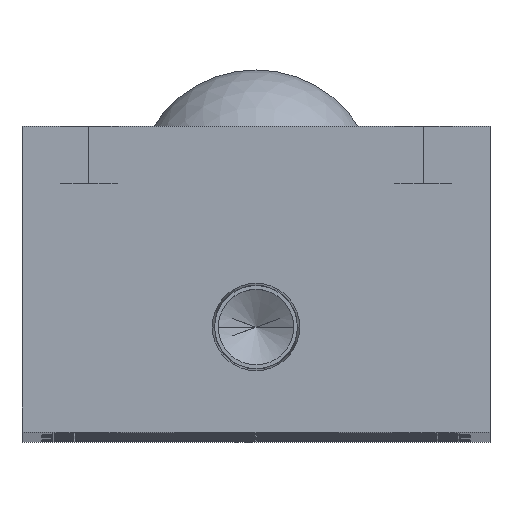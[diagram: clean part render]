
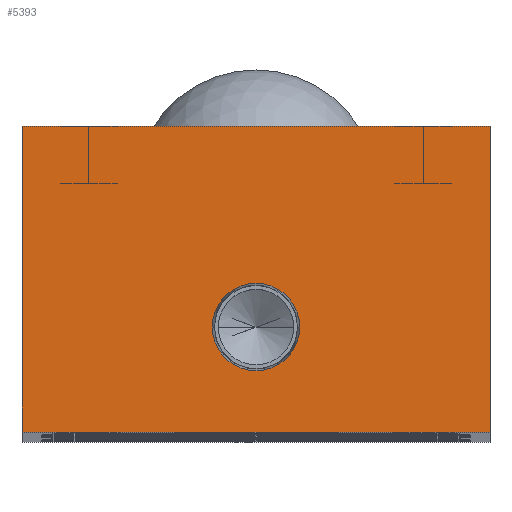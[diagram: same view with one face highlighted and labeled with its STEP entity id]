
A CAD part, top view. The second image highlights one B-rep face of the part: STEP entity #5393.
In plain terms, the highlighted planar face has unit normal (0, 0, 1).
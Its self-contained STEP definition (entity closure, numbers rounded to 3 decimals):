
#60 = VERTEX_POINT ( 'NONE', #12897 ) ;
#262 = CARTESIAN_POINT ( 'NONE',  ( 0., 0., 0. ) ) ;
#271 = CIRCLE ( 'NONE', #3642, 4.574 ) ;
#361 = VERTEX_POINT ( 'NONE', #7425 ) ;
#597 = ORIENTED_EDGE ( 'NONE', *, *, #10746, .T. ) ;
#680 = EDGE_CURVE ( 'NONE', #2832, #60, #8377, .T. ) ;
#760 = AXIS2_PLACEMENT_3D ( 'NONE', #262, #2484, #10094 ) ;
#1148 = LINE ( 'NONE', #12941, #3715 ) ;
#1376 = DIRECTION ( 'NONE',  ( 0., 0., 1. ) ) ;
#1585 = CARTESIAN_POINT ( 'NONE',  ( 4.574, 11., 0. ) ) ;
#2017 = FACE_BOUND ( 'NONE', #4960, .T. ) ;
#2399 = CARTESIAN_POINT ( 'NONE',  ( 24.5, 0., 0. ) ) ;
#2484 = DIRECTION ( 'NONE',  ( 0., 0., -1. ) ) ;
#2688 = LINE ( 'NONE', #13143, #8493 ) ;
#2806 = EDGE_CURVE ( 'NONE', #7089, #2832, #2688, .T. ) ;
#2832 = VERTEX_POINT ( 'NONE', #4402 ) ;
#3214 = VECTOR ( 'NONE', #4610, 1000. ) ;
#3500 = ORIENTED_EDGE ( 'NONE', *, *, #680, .T. ) ;
#3564 = EDGE_LOOP ( 'NONE', ( #10188, #597, #10402, #3500 ) ) ;
#3642 = AXIS2_PLACEMENT_3D ( 'NONE', #5813, #13416, #6875 ) ;
#3715 = VECTOR ( 'NONE', #5314, 1000. ) ;
#4402 = CARTESIAN_POINT ( 'NONE',  ( 24.5, 32., 0. ) ) ;
#4610 = DIRECTION ( 'NONE',  ( 1., 0., 0. ) ) ;
#4648 = CARTESIAN_POINT ( 'NONE',  ( 24.5, 0., 0. ) ) ;
#4816 = VECTOR ( 'NONE', #7703, 1000. ) ;
#4946 = FACE_OUTER_BOUND ( 'NONE', #3564, .T. ) ;
#4960 = EDGE_LOOP ( 'NONE', ( #10921, #7690 ) ) ;
#5314 = DIRECTION ( 'NONE',  ( 0., -1., 0. ) ) ;
#5392 = EDGE_CURVE ( 'NONE', #361, #6202, #7829, .T. ) ;
#5393 = ADVANCED_FACE ( 'NONE', ( #2017, #4946 ), #12286, .F. ) ;
#5516 = CARTESIAN_POINT ( 'NONE',  ( -24.5, 32., 0. ) ) ;
#5743 = EDGE_CURVE ( 'NONE', #60, #10147, #1148, .T. ) ;
#5813 = CARTESIAN_POINT ( 'NONE',  ( 0., 11., 0. ) ) ;
#6202 = VERTEX_POINT ( 'NONE', #1585 ) ;
#6591 = DIRECTION ( 'NONE',  ( 0., 1., 0. ) ) ;
#6875 = DIRECTION ( 'NONE',  ( 1., 0., 0. ) ) ;
#7089 = VERTEX_POINT ( 'NONE', #4648 ) ;
#7425 = CARTESIAN_POINT ( 'NONE',  ( -4.574, 11., 0. ) ) ;
#7690 = ORIENTED_EDGE ( 'NONE', *, *, #5392, .F. ) ;
#7703 = DIRECTION ( 'NONE',  ( -1., 0., 0. ) ) ;
#7829 = CIRCLE ( 'NONE', #12031, 4.574 ) ;
#7926 = CARTESIAN_POINT ( 'NONE',  ( 0., 11., 0. ) ) ;
#8377 = LINE ( 'NONE', #5516, #4816 ) ;
#8493 = VECTOR ( 'NONE', #6591, 1000. ) ;
#9023 = DIRECTION ( 'NONE',  ( 1., 0., 0. ) ) ;
#10094 = DIRECTION ( 'NONE',  ( -1., 0., 0. ) ) ;
#10147 = VERTEX_POINT ( 'NONE', #10953 ) ;
#10188 = ORIENTED_EDGE ( 'NONE', *, *, #5743, .T. ) ;
#10402 = ORIENTED_EDGE ( 'NONE', *, *, #2806, .T. ) ;
#10746 = EDGE_CURVE ( 'NONE', #10147, #7089, #11922, .T. ) ;
#10785 = EDGE_CURVE ( 'NONE', #6202, #361, #271, .T. ) ;
#10921 = ORIENTED_EDGE ( 'NONE', *, *, #10785, .F. ) ;
#10953 = CARTESIAN_POINT ( 'NONE',  ( -24.5, 0., 0. ) ) ;
#11922 = LINE ( 'NONE', #2399, #3214 ) ;
#12031 = AXIS2_PLACEMENT_3D ( 'NONE', #7926, #1376, #9023 ) ;
#12286 = PLANE ( 'NONE',  #760 ) ;
#12897 = CARTESIAN_POINT ( 'NONE',  ( -24.5, 32., 0. ) ) ;
#12941 = CARTESIAN_POINT ( 'NONE',  ( -24.5, 0., 0. ) ) ;
#13143 = CARTESIAN_POINT ( 'NONE',  ( 24.5, 32., 0. ) ) ;
#13416 = DIRECTION ( 'NONE',  ( 0., 0., 1. ) ) ;
